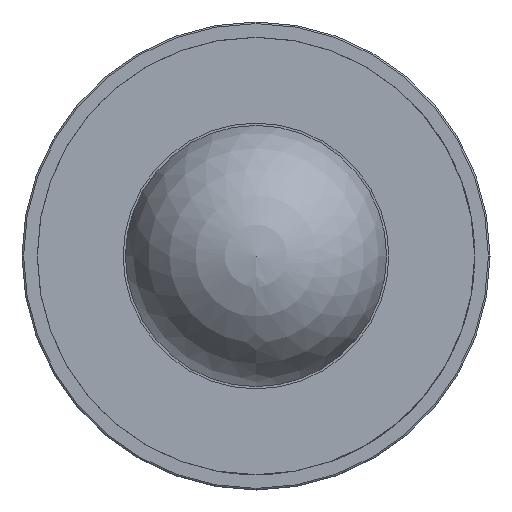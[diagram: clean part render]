
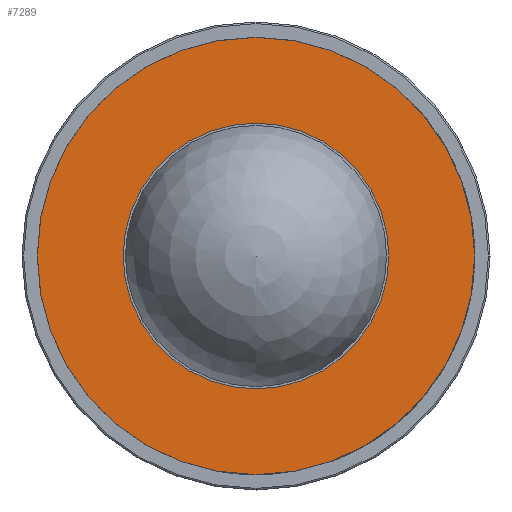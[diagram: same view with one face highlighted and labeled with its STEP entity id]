
A CAD part, left-side view. The second image highlights one B-rep face of the part: STEP entity #7289.
In plain terms, the highlighted planar face has unit normal (-1, 0, 0).
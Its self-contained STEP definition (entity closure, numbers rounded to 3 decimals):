
#257=PLANE('',#7654);
#431=CIRCLE('',#7655,14.415);
#432=CIRCLE('',#7656,23.736);
#754=ORIENTED_EDGE('',*,*,#2310,.T.);
#755=ORIENTED_EDGE('',*,*,#2311,.F.);
#2310=EDGE_CURVE('',#3086,#3086,#431,.T.);
#2311=EDGE_CURVE('',#3087,#3087,#432,.T.);
#3086=VERTEX_POINT('',#10053);
#3087=VERTEX_POINT('',#10055);
#4085=EDGE_LOOP('',(#754));
#4086=EDGE_LOOP('',(#755));
#4512=FACE_BOUND('',#4085,.T.);
#4513=FACE_BOUND('',#4086,.T.);
#7289=ADVANCED_FACE('',(#4512,#4513),#257,.F.);
#7654=AXIS2_PLACEMENT_3D('',#10051,#8045,#8046);
#7655=AXIS2_PLACEMENT_3D('',#10052,#8047,#8048);
#7656=AXIS2_PLACEMENT_3D('',#10054,#8049,#8050);
#8045=DIRECTION('',(1.,0.,0.));
#8046=DIRECTION('',(0.,0.,1.));
#8047=DIRECTION('',(1.,0.,0.));
#8048=DIRECTION('',(0.,-1.,0.));
#8049=DIRECTION('',(1.,0.,0.));
#8050=DIRECTION('',(0.,0.,1.));
#10051=CARTESIAN_POINT('',(-117.259,0.,23.736));
#10052=CARTESIAN_POINT('',(-117.259,0.,0.));
#10053=CARTESIAN_POINT('',(-117.259,-14.415,0.));
#10054=CARTESIAN_POINT('',(-117.259,0.,0.));
#10055=CARTESIAN_POINT('',(-117.259,0.,23.736));
